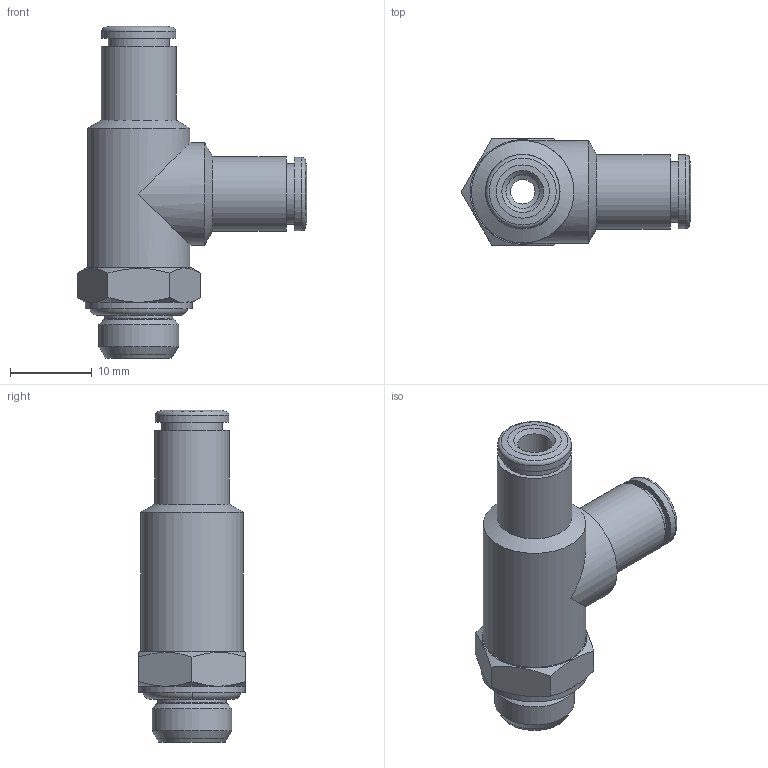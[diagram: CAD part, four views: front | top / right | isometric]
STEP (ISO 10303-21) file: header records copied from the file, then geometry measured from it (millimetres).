
FILE_DESCRIPTION(('Bauteilbeschreibung','HiCAD-Model','HiCAD-STEP-TRANSLATION','Bauteilbeschreibung'),'2;1');
FILE_NAME('B:/ABGLEICH/ZEICHNUNGEN/STEP FÜR INTERNET/STEP/202101_IPSO_021_4_1-8.STP','2011-09-27T16:58:06+00:00',('Konstrukteur'),('Konstrukteur Firma GmbH'),' HiCAD neXt 2008, Step 3.1.1401.2J ','HiCAD neXt 2008','confidential');
FILE_SCHEMA(('AUTOMOTIVE_DESIGN { 1 2 10303 214 0 1 1 1 }'));
Length unit declared in the file: millimetre
Products named in the file (8): A02101_IPSO_021_4_1_8; OR 7_2X1_9; A14602_N2_GEW___1_8_1_8; A146020N20GEW0001080108; G 1_8; DR4_1_NEU; DR4010NEU; R202101_N2
Assembly tree (7 placements, depth 3):
  A02101_IPSO_021_4_1_8
    OR 7_2X1_9
    A14602_N2_GEW___1_8_1_8
    A146020N20GEW0001080108
      G 1_8
    DR4_1_NEU
    DR4010NEU
    R202101_N2
Bounding box: 28.01 x 13 x 40.5 mm (x, y, z)
Volume: 3846.7 mm3; surface area: 4679.7 mm2
Topology: 6 solids, 6 shells, 98 faces, 204 edges, 122 vertices
Faces by surface type: cone 35, cylinder 31, plane 24, torus 8
Full cylindrical faces by diameter (mm): 3 x2, 4.1 x4, 5.5 x1, 6 x1, 6.4 x2, 7.3 x2, 7.4 x2, 7.6 x2, 8.3 x1, 8.566 x2, 9 x4, 9.1 x2, 9.728 x1, 10.1 x2, 12.5 x2, 13 x1
Entity records: 3544 total; most frequent: CARTESIAN_POINT 1029, DIRECTION 422, ORIENTED_EDGE 242, AXIS2_PLACEMENT_3D 208, EDGE_LOOP 182, EDGE_CURVE 121, COLOUR_RGB 118, PRESENTATION_STYLE_ASSIGNMENT 118
